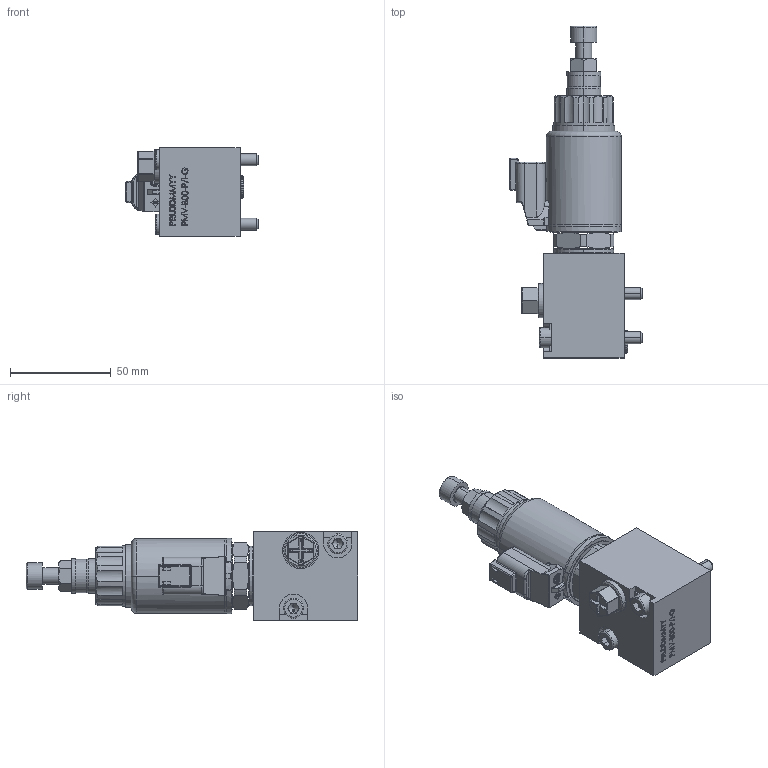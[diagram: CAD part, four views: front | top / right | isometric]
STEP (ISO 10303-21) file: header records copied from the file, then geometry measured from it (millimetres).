
FILE_DESCRIPTION (( 'STEP AP214' ), '1' );
FILE_NAME ('800.0539.STEP', '2023-10-27T10:54:05', ( '' ), ( '' ), 'SwSTEP 2.0', 'SolidWorks 2022', '' );
FILE_SCHEMA (( 'AUTOMOTIVE_DESIGN' ));
Length unit declared in the file: millimetre
Products named in the file (1): 800.0539
Bounding box: 65.7 x 164.8 x 44 mm (x, y, z)
Surface area: 31676.9 mm2 (no closed solid volume)
Topology: 0 solids, 19 shells, 723 faces, 2549 edges, 1760 vertices
Faces by surface type: plane 392, cylinder 151, bspline 107, cone 40, torus 21, sphere 12
Entity records: 45105 total; most frequent: CARTESIAN_POINT 16475, ORIENTED_EDGE 4073, DIRECTION 3956, EDGE_CURVE 2533, VERTEX_POINT 1760, VECTOR 1598, LINE 1598, AXIS2_PLACEMENT_3D 1179
